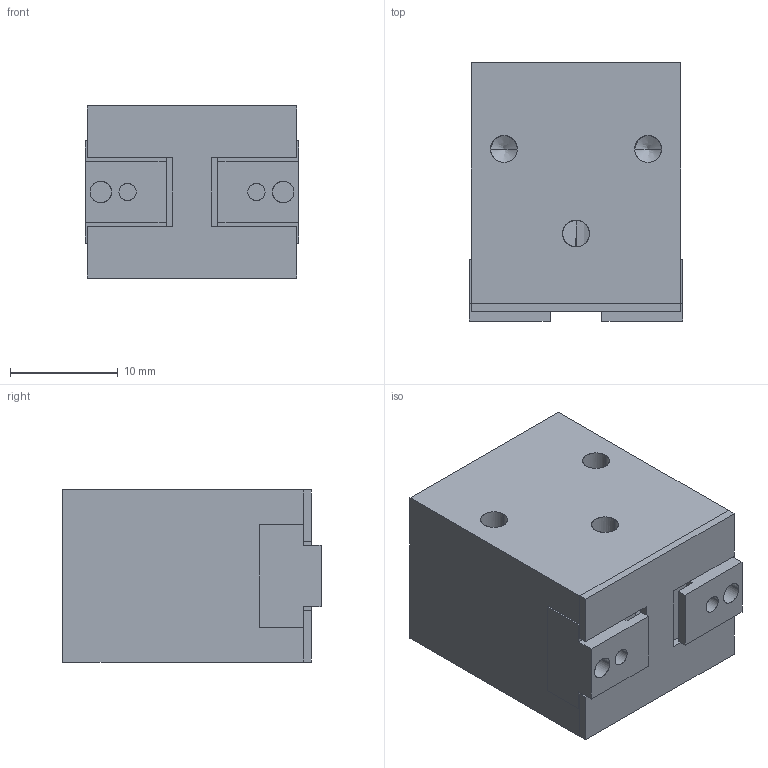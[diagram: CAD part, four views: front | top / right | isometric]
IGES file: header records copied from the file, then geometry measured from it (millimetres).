
Start section: SolidWorks IGES file using analytic representation for surfaces
Global section: file name: C:\Users\jmkuhnes\Pictures\PERSONAL\AGPM-1\agpm-1\AGPM-1 OPEN in MM.IGS; native system: SolidWorks 2013; preprocessor: SolidWorks 2013; author: jmkuhnes; date: 141031.110845; units: millimetre
Bounding box: 19.81 x 24 x 16 mm (x, y, z)
Surface area: 4143.7 mm2 (no closed solid volume)
Topology: 0 solids, 0 shells, 112 faces, 1332 edges, 1316 vertices
Faces by surface type: revolution 58, bspline 54
